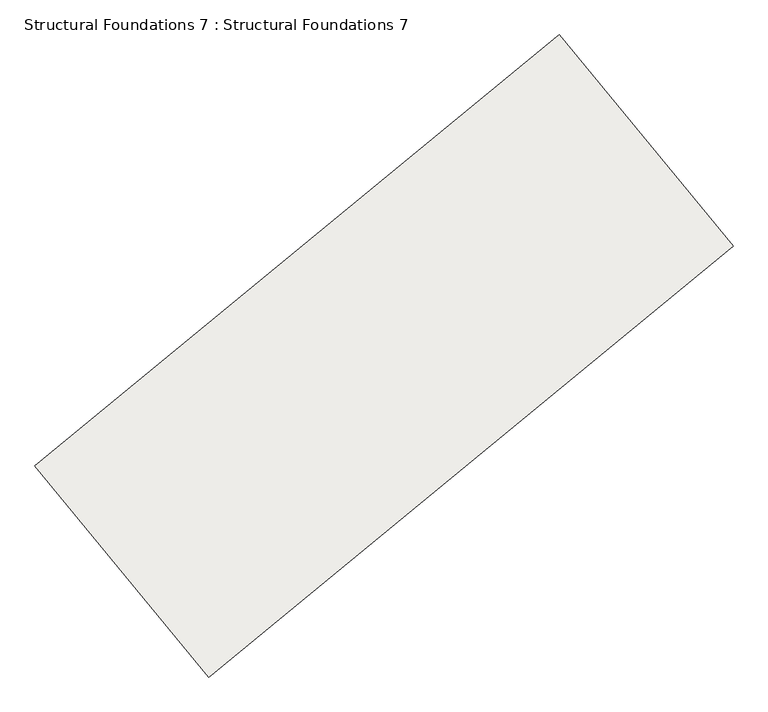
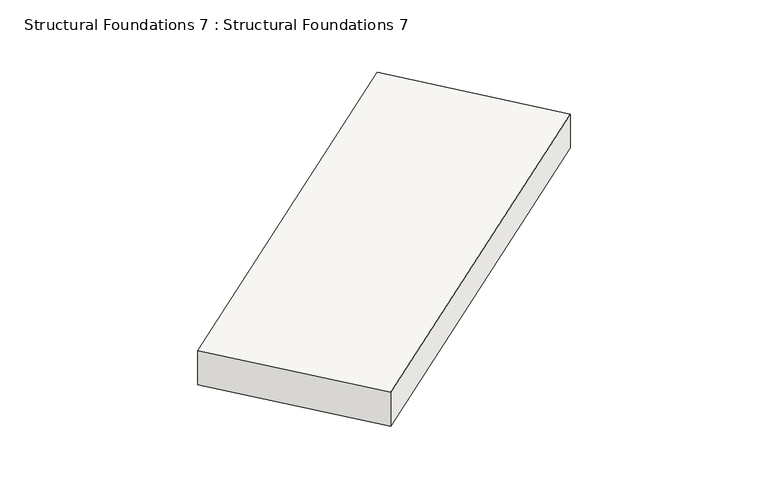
"""IFC4 building model written with IfcOpenShell, lengths in millimetres: slab geometry, Structural Foundations 7 : Structural Foundations 7."""

from ifc_helpers import new_model, si_unit, frame, origin, place, context, project, spatial, polyline, outline, extrude, source, transform, mapped, element, save


def structural_foundations_7_structural_foundations_7_31de522a(model_context):
    return source(origin(), model_context, "Body", "SweptSolid", [
        extrude(outline(polyline([(-350.0, 0.0), (350.0, 0.0), (280.0, -8690.0), (-420.0, -8690.0), (-350.0, 0.0)])), frame((-310936.1555633, -463387.5997799, 634250.0), z_axis=(-0.6353361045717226, 0.7722357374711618, 0.0), x_axis=(0.0, 0.0, 1.0)), (0.0, 0.0, 1.0), 3500.0),
    ])


if __name__ == "__main__":
    model = new_model("IFC4")
    model_context = context("Model", 3, world=origin())
    ifc_project = project(units=[si_unit("LENGTHUNIT", "METRE", prefix="MILLI")], contexts=[model_context])
    site = spatial("IfcSite", under=ifc_project)
    building = spatial("IfcBuilding", under=site)
    placement = place(None, origin())
    structural_foundations_7_structural_foundations_7_shape = structural_foundations_7_structural_foundations_7_31de522a(model_context)
    element("IfcSlab", 1, ObjectType="Structural Foundations 7 : Structural Foundations 7", at=placement, inside=building, context=model_context, shape_type="MappedRepresentation", body=[
        mapped(structural_foundations_7_structural_foundations_7_shape, transform((0.0, 0.0, 0.0), x_axis=(1.0, 0.0, 0.0), y_axis=(0.0, 1.0, 0.0), z_axis=(0.0, 0.0, 1.0))),
    ])
    save(model, "model.ifc")
